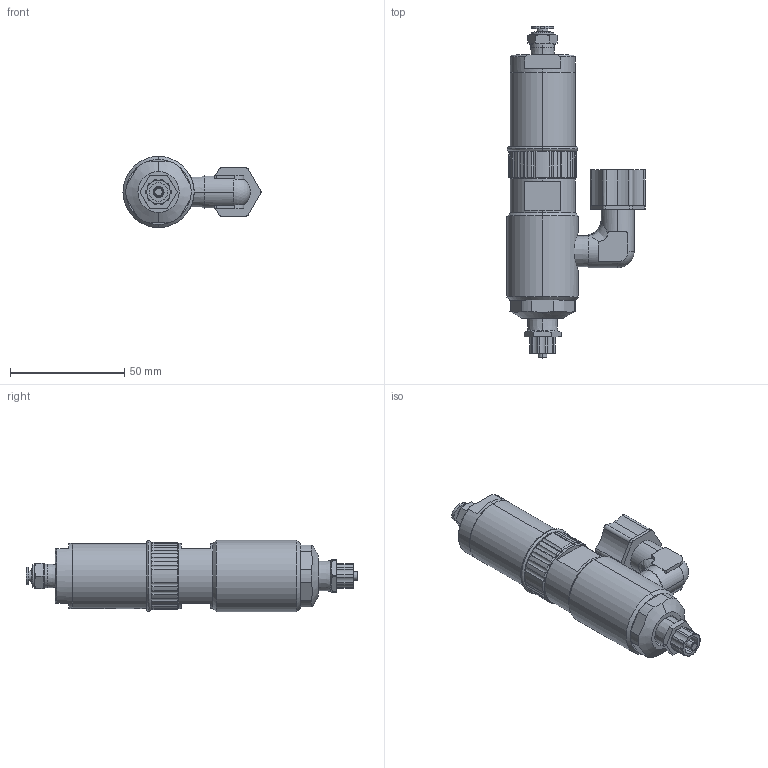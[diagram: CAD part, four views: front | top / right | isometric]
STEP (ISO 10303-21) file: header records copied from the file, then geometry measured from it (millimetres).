
FILE_DESCRIPTION (( 'STEP AP214' ), '1' );
FILE_NAME ('NORDSONEFD-7021011 725DA-A ADJUSTABLE PISTON VALVE - ACETAL.STEP', '2019-06-30T09:59:01', ( '' ), ( '' ), 'SwSTEP 2.0', 'SolidWorks 2019', '' );
FILE_SCHEMA (( 'AUTOMOTIVE_DESIGN' ));
Length unit declared in the file: inch
Products named in the file (1): NORDSONEFD-7021011  725DA-A ADJUSTABLE PISTON VALVE - ACETAL
Bounding box: 60.4 x 145.26 x 31.11 mm (x, y, z)
Volume: 63710.1 mm3; surface area: 32925.8 mm2
Topology: 1 solids, 3 shells, 592 faces, 1483 edges, 922 vertices
Faces by surface type: cylinder 257, cone 154, plane 131, torus 30, bspline 19, sphere 1
Entity records: 27619 total; most frequent: CARTESIAN_POINT 13542, ORIENTED_EDGE 2954, DIRECTION 2939, EDGE_CURVE 1477, AXIS2_PLACEMENT_3D 1204, VERTEX_POINT 921, EDGE_LOOP 642, CIRCLE 630
